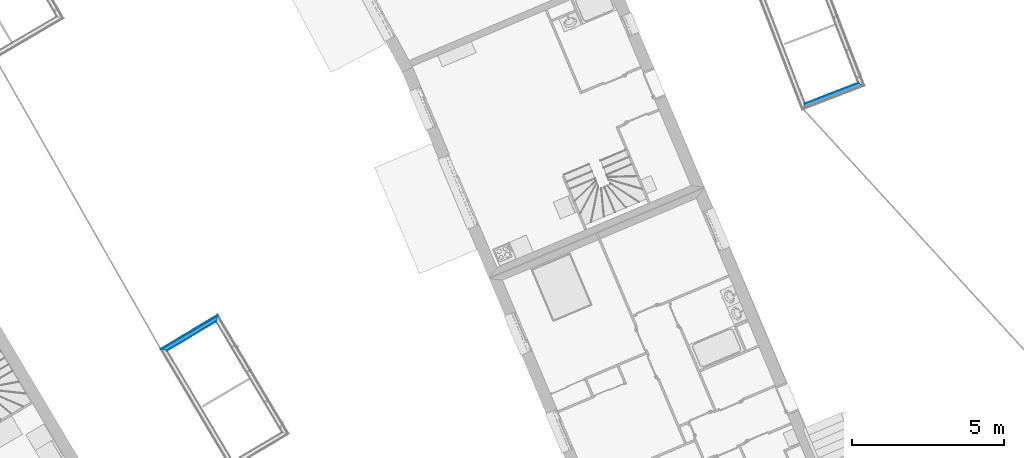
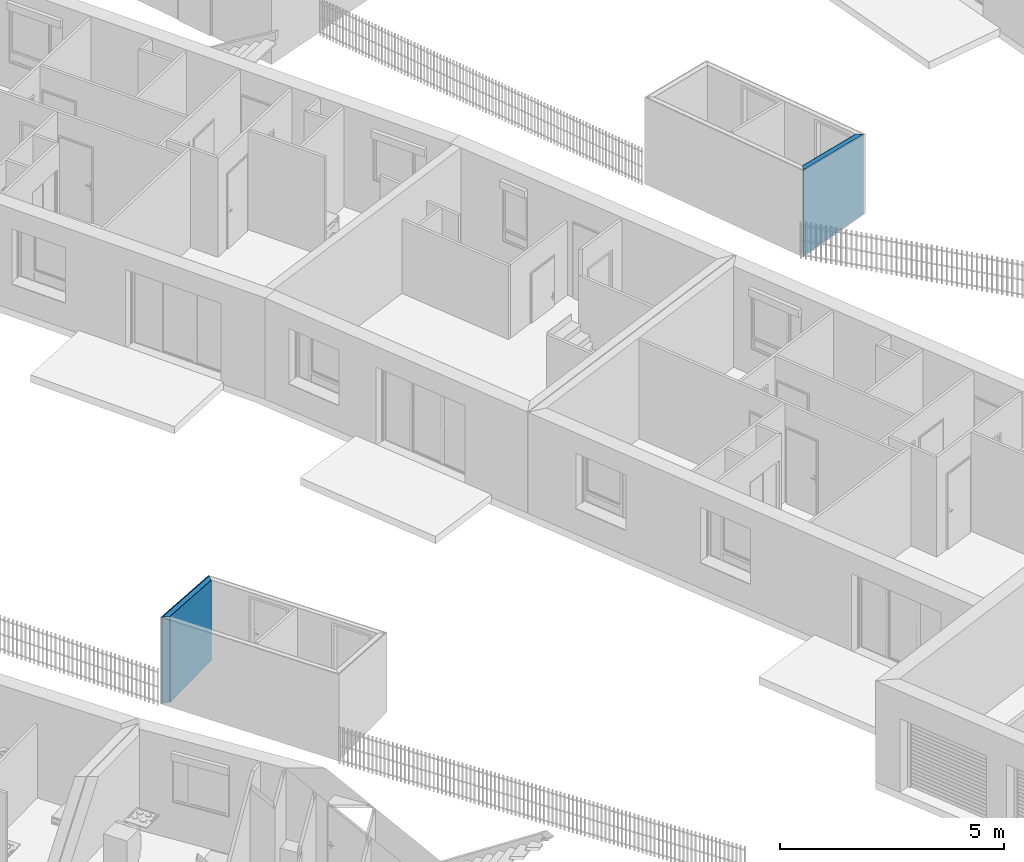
# One storey, part 125 of 195: 6 building element parts, 2 elements without a shape of their own.
"""IFC2X3 building model written with IfcOpenShell, lengths in metres."""

from ifc_helpers import new_model, entity, si_unit, converted_unit, derived_unit, money_unit, direction, frame, origin_with_axes, place, context, subcontext, project, spatial, polyline, outline, extrude, boolean, faceted_brep, material, type_object, element, aggregate, save


model = new_model("IFC2X3")

# Units and contexts
model_context = context("Model", 3, precision=1e-05, world=origin_with_axes(), true_north=direction((0.0, 1.0)))
body_context = subcontext(model_context, "Body", "Model", "MODEL_VIEW")
ifc_project = project(units=[si_unit("LENGTHUNIT", "METRE"), si_unit("AREAUNIT", "SQUARE_METRE"), si_unit("VOLUMEUNIT", "CUBIC_METRE"), converted_unit("PLANEANGLEUNIT", "DEGREE", entity("IfcPlaneAngleMeasure", 0.0174532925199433), si_unit("PLANEANGLEUNIT", "RADIAN"), dimensions=[0, 0, 0, 0, 0, 0, 0]), money_unit("CHF"), converted_unit("TIMEUNIT", "Year", entity("IfcTimeMeasure", 31557600.0), si_unit("TIMEUNIT", "SECOND"), dimensions=[0, 0, 1, 0, 0, 0, 0]), si_unit("MASSUNIT", "GRAM", prefix="KILO"), si_unit("THERMODYNAMICTEMPERATUREUNIT", "DEGREE_CELSIUS"), si_unit("LUMINOUSINTENSITYUNIT", "LUMEN"), si_unit("ENERGYUNIT", "JOULE", prefix="MEGA"), derived_unit("THERMALCONDUCTANCEUNIT", [(si_unit("POWERUNIT", "WATT"), 1), (si_unit("LENGTHUNIT", "METRE"), -1), (si_unit("THERMODYNAMICTEMPERATUREUNIT", "KELVIN"), -1)]), derived_unit("SPECIFICHEATCAPACITYUNIT", [(si_unit("ENERGYUNIT", "JOULE"), 1), (si_unit("MASSUNIT", "GRAM", prefix="KILO"), -1), (si_unit("THERMODYNAMICTEMPERATUREUNIT", "KELVIN"), -1)]), derived_unit("MASSDENSITYUNIT", [(si_unit("MASSUNIT", "GRAM", prefix="KILO"), 1), (si_unit("VOLUMEUNIT", "CUBIC_METRE"), -1)])], contexts=[model_context])

# Site, building, storey
site_placement = place(None, origin_with_axes())
site = spatial("IfcSite", under=ifc_project, at=site_placement, Name="Site", CompositionType="ELEMENT")
building_placement = place(site_placement, origin_with_axes())
building = spatial("IfcBuilding", under=site, at=building_placement, Name="Bâtiment", CompositionType="ELEMENT")
storey_placement = place(building_placement, origin_with_axes())
storey = spatial("IfcBuildingStorey", under=building, at=storey_placement, Name="rdc", CompositionType="ELEMENT", Elevation=0.0)

# Wall, building element parts
wall_type = type_object("IfcWallType", Name="1/Ossatur bois 160   non isol 160", PredefinedType="NOTDEFINED")
wall_1_placement = place(storey_placement, frame((9552.491666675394, -1047.652274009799, 57.7), z_axis=(0.0, 0.0, 1.0), x_axis=(0.8592615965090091, 0.5115364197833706, 0.0)))
wall_1 = element("IfcWall", 1, at=wall_1_placement, inside=storey, type_object=wall_type, Name="Mur-109")
ifc_material_1 = material(Name="Lame d'air 275581439")
building_element_part_1_placement = place(wall_1_placement, origin_with_axes())
building_element_part_1 = element("IfcBuildingElementPart", 2, at=building_element_part_1_placement, material=ifc_material_1, Name="Lame d'air 275581439", context=body_context, shape_type="CSG", body=[
    boolean("DIFFERENCE", boolean("DIFFERENCE", boolean("DIFFERENCE", boolean("DIFFERENCE", extrude(outline(polyline([(0.0, -0.1499999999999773), (2.193108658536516, -0.1499999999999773), (2.19310865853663, -0.0300000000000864), (0.0, -0.0300000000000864), (0.0, -0.1499999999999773)])), origin_with_axes(), (0.0, 0.0, 1.0), 2.75), faceted_brep([(0.1500000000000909, -0.1500000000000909, 2.343319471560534), (0.1499999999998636, -0.1499999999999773, 0.0), (0.0, -0.1499999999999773, 0.0), (0.0, -0.1499999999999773, 2.75), (2.193108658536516, -0.1499999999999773, 2.75), (2.193108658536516, -0.1499999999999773, 0.0), (2.043108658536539, -0.1499999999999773, 0.0), (2.043108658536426, -0.1500000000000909, 2.177693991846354), (0.1599999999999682, -0.1600000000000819, 2.342443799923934), (0.1599999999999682, -0.1600000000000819, 0.0), (0.0, -0.1600000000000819, 0.0), (0.0, -0.1600000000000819, 2.75), (2.193108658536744, -0.1599999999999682, 2.75), (2.193108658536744, -0.1599999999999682, 0.0), (2.033108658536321, -0.1600000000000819, 0.0), (2.033108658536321, -0.1600000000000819, 2.178568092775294)], [[[0, 1, 2, 3, 4, 5, 6, 7]], [[8, 9, 1, 0]], [[1, 9, 10, 2]], [[3, 2, 10, 11]], [[3, 11, 12, 4]], [[12, 13, 5, 4]], [[14, 6, 5, 13]], [[7, 6, 14, 15]], [[0, 7, 15, 8]], [[15, 14, 13, 12, 11, 10, 9, 8]]])), faceted_brep([(0.0300000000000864, -0.0300000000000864, 2.35382753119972), (0.0300000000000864, -0.0300000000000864, 0.0), (0.0, -0.0300000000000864, 0.0), (0.0, -0.0300000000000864, 2.75), (2.193108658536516, -0.0300000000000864, 2.75), (2.193108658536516, -0.0300000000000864, 0.0), (2.163108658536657, -0.0300000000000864, 0.0), (2.163108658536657, -0.0300000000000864, 2.167204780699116), (0.1499999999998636, -0.1499999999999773, 2.343319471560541), (0.1499999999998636, -0.1499999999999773, 0.0), (0.0, -0.1499999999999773, 0.0), (0.0, -0.1499999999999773, 2.75), (2.193108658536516, -0.1499999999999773, 2.75), (2.193108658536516, -0.1499999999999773, 0.0), (2.043108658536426, -0.1500000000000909, 0.0), (2.043108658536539, -0.1499999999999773, 2.177693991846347)], [[[0, 1, 2, 3, 4, 5, 6, 7]], [[8, 9, 1, 0]], [[1, 9, 10, 2]], [[3, 2, 10, 11]], [[3, 11, 12, 4]], [[12, 13, 5, 4]], [[14, 6, 5, 13]], [[7, 6, 14, 15]], [[0, 7, 15, 8]], [[15, 14, 13, 12, 11, 10, 9, 8]]])), faceted_brep([(0.01000000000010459, -0.01000000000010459, 2.355578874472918), (0.01000000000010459, -0.01000000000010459, 0.0), (0.0, -0.009999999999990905, 0.0), (0.0, -0.009999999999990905, 2.75), (2.19310865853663, -0.009999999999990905, 2.75), (2.19310865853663, -0.009999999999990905, 0.0), (2.183108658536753, -0.009999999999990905, 0.0), (2.183108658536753, -0.01000000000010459, 2.165456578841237), (0.0300000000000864, -0.0300000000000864, 2.35382753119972), (0.0300000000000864, -0.0300000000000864, 0.0), (0.0, -0.0300000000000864, 0.0), (0.0, -0.0300000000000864, 2.75), (2.193108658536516, -0.0300000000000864, 2.75), (2.193108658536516, -0.0300000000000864, 0.0), (2.163108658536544, -0.0300000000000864, 0.0), (2.163108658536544, -0.0300000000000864, 2.167204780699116)], [[[0, 1, 2, 3, 4, 5, 6, 7]], [[8, 9, 1, 0]], [[1, 9, 10, 2]], [[3, 2, 10, 11]], [[3, 11, 12, 4]], [[12, 13, 5, 4]], [[14, 6, 5, 13]], [[7, 6, 14, 15]], [[0, 7, 15, 8]], [[15, 14, 13, 12, 11, 10, 9, 8]]])), faceted_brep([(2.19310865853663, 0.0, 0.0), (2.193108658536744, 0.0, 2.164582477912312), (2.19310865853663, 0.0, 2.75), (2.19310865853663, -0.009999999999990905, 2.75), (2.19310865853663, -0.009999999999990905, 0.0), (2.183108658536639, -0.009999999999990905, 0.0), (2.183108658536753, -0.01000000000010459, 2.165456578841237), (0.0, 0.0, 2.356454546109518), (0.0, 0.0, 2.75), (0.0, -0.009999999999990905, 2.75), (0.0, -0.009999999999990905, 0.0), (0.01000000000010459, -0.01000000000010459, 0.0), (0.01000000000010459, -0.01000000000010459, 2.355578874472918), (0.0, 0.0, 0.0)], [[[0, 1, 2, 3, 4]], [[1, 0, 5, 6]], [[1, 7, 8, 2]], [[8, 9, 3, 2]], [[6, 5, 4, 3, 9, 10, 11, 12]], [[5, 0, 4]], [[7, 1, 6, 12]], [[7, 13, 10, 9, 8]], [[13, 11, 10]], [[12, 11, 13, 7]]])),
])
ifc_material_2 = material(Name="Sans Trame 296962763")
building_element_part_2_placement = place(wall_1_placement, origin_with_axes())
building_element_part_2 = element("IfcBuildingElementPart", 3, at=building_element_part_2_placement, material=ifc_material_2, Name="Sans Trame 296962763", context=body_context, shape_type="CSG", body=[
    boolean("DIFFERENCE", boolean("DIFFERENCE", boolean("DIFFERENCE", boolean("DIFFERENCE", extrude(outline(polyline([(0.0, -0.1600000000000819), (2.19310865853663, -0.1599999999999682), (2.193108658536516, -0.1499999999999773), (0.0, -0.1499999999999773), (0.0, -0.1600000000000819)])), origin_with_axes(), (0.0, 0.0, 1.0), 2.75), faceted_brep([(0.1500000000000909, -0.1500000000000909, 2.343319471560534), (0.1499999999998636, -0.1499999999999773, 0.0), (0.0, -0.1499999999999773, 0.0), (0.0, -0.1499999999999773, 2.75), (2.193108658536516, -0.1499999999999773, 2.75), (2.193108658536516, -0.1499999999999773, 0.0), (2.043108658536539, -0.1499999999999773, 0.0), (2.043108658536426, -0.1500000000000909, 2.177693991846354), (0.1599999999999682, -0.1600000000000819, 2.342443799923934), (0.1599999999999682, -0.1600000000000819, 0.0), (0.0, -0.1600000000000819, 0.0), (0.0, -0.1600000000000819, 2.75), (2.193108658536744, -0.1599999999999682, 2.75), (2.193108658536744, -0.1599999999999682, 0.0), (2.033108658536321, -0.1600000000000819, 0.0), (2.033108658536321, -0.1600000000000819, 2.178568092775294)], [[[0, 1, 2, 3, 4, 5, 6, 7]], [[8, 9, 1, 0]], [[1, 9, 10, 2]], [[3, 2, 10, 11]], [[3, 11, 12, 4]], [[12, 13, 5, 4]], [[14, 6, 5, 13]], [[7, 6, 14, 15]], [[0, 7, 15, 8]], [[15, 14, 13, 12, 11, 10, 9, 8]]])), faceted_brep([(0.0300000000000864, -0.0300000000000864, 2.35382753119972), (0.0300000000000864, -0.0300000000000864, 0.0), (0.0, -0.0300000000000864, 0.0), (0.0, -0.0300000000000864, 2.75), (2.193108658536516, -0.0300000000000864, 2.75), (2.193108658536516, -0.0300000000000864, 0.0), (2.163108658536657, -0.0300000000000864, 0.0), (2.163108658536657, -0.0300000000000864, 2.167204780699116), (0.1499999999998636, -0.1499999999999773, 2.343319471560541), (0.1499999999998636, -0.1499999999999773, 0.0), (0.0, -0.1499999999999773, 0.0), (0.0, -0.1499999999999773, 2.75), (2.193108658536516, -0.1499999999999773, 2.75), (2.193108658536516, -0.1499999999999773, 0.0), (2.043108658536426, -0.1500000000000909, 0.0), (2.043108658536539, -0.1499999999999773, 2.177693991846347)], [[[0, 1, 2, 3, 4, 5, 6, 7]], [[8, 9, 1, 0]], [[1, 9, 10, 2]], [[3, 2, 10, 11]], [[3, 11, 12, 4]], [[12, 13, 5, 4]], [[14, 6, 5, 13]], [[7, 6, 14, 15]], [[0, 7, 15, 8]], [[15, 14, 13, 12, 11, 10, 9, 8]]])), faceted_brep([(0.01000000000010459, -0.01000000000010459, 2.355578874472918), (0.01000000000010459, -0.01000000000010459, 0.0), (0.0, -0.009999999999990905, 0.0), (0.0, -0.009999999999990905, 2.75), (2.19310865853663, -0.009999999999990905, 2.75), (2.19310865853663, -0.009999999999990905, 0.0), (2.183108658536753, -0.009999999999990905, 0.0), (2.183108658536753, -0.01000000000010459, 2.165456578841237), (0.0300000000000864, -0.0300000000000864, 2.35382753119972), (0.0300000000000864, -0.0300000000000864, 0.0), (0.0, -0.0300000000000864, 0.0), (0.0, -0.0300000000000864, 2.75), (2.193108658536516, -0.0300000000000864, 2.75), (2.193108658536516, -0.0300000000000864, 0.0), (2.163108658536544, -0.0300000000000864, 0.0), (2.163108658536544, -0.0300000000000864, 2.167204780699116)], [[[0, 1, 2, 3, 4, 5, 6, 7]], [[8, 9, 1, 0]], [[1, 9, 10, 2]], [[3, 2, 10, 11]], [[3, 11, 12, 4]], [[12, 13, 5, 4]], [[14, 6, 5, 13]], [[7, 6, 14, 15]], [[0, 7, 15, 8]], [[15, 14, 13, 12, 11, 10, 9, 8]]])), faceted_brep([(2.19310865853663, 0.0, 0.0), (2.193108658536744, 0.0, 2.164582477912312), (2.19310865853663, 0.0, 2.75), (2.19310865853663, -0.009999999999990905, 2.75), (2.19310865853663, -0.009999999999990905, 0.0), (2.183108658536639, -0.009999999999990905, 0.0), (2.183108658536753, -0.01000000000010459, 2.165456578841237), (0.0, 0.0, 2.356454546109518), (0.0, 0.0, 2.75), (0.0, -0.009999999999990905, 2.75), (0.0, -0.009999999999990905, 0.0), (0.01000000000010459, -0.01000000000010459, 0.0), (0.01000000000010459, -0.01000000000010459, 2.355578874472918), (0.0, 0.0, 0.0)], [[[0, 1, 2, 3, 4]], [[1, 0, 5, 6]], [[1, 7, 8, 2]], [[8, 9, 3, 2]], [[6, 5, 4, 3, 9, 10, 11, 12]], [[5, 0, 4]], [[7, 1, 6, 12]], [[7, 13, 10, 9, 8]], [[13, 11, 10]], [[12, 11, 13, 7]]])),
])
ifc_material_3 = material(Name="Hachure solide 323202122")
building_element_part_3_placement = place(wall_1_placement, origin_with_axes())
building_element_part_3 = element("IfcBuildingElementPart", 4, at=building_element_part_3_placement, material=ifc_material_3, Name="Hachure solide 323202122", context=body_context, shape_type="CSG", body=[
    boolean("DIFFERENCE", boolean("DIFFERENCE", boolean("DIFFERENCE", boolean("DIFFERENCE", extrude(outline(polyline([(0.0, -0.009999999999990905), (2.19310865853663, -0.009999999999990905), (2.19310865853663, 0.0), (0.0, 0.0), (0.0, -0.009999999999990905)])), origin_with_axes(), (0.0, 0.0, 1.0), 2.75), faceted_brep([(0.1500000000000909, -0.1500000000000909, 2.343319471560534), (0.1499999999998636, -0.1499999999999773, 0.0), (0.0, -0.1499999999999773, 0.0), (0.0, -0.1499999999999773, 2.75), (2.193108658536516, -0.1499999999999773, 2.75), (2.193108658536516, -0.1499999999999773, 0.0), (2.043108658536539, -0.1499999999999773, 0.0), (2.043108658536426, -0.1500000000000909, 2.177693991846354), (0.1599999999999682, -0.1600000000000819, 2.342443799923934), (0.1599999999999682, -0.1600000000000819, 0.0), (0.0, -0.1600000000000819, 0.0), (0.0, -0.1600000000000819, 2.75), (2.193108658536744, -0.1599999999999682, 2.75), (2.193108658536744, -0.1599999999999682, 0.0), (2.033108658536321, -0.1600000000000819, 0.0), (2.033108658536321, -0.1600000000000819, 2.178568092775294)], [[[0, 1, 2, 3, 4, 5, 6, 7]], [[8, 9, 1, 0]], [[1, 9, 10, 2]], [[3, 2, 10, 11]], [[3, 11, 12, 4]], [[12, 13, 5, 4]], [[14, 6, 5, 13]], [[7, 6, 14, 15]], [[0, 7, 15, 8]], [[15, 14, 13, 12, 11, 10, 9, 8]]])), faceted_brep([(0.0300000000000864, -0.0300000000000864, 2.35382753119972), (0.0300000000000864, -0.0300000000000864, 0.0), (0.0, -0.0300000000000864, 0.0), (0.0, -0.0300000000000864, 2.75), (2.193108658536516, -0.0300000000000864, 2.75), (2.193108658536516, -0.0300000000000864, 0.0), (2.163108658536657, -0.0300000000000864, 0.0), (2.163108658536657, -0.0300000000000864, 2.167204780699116), (0.1499999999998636, -0.1499999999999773, 2.343319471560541), (0.1499999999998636, -0.1499999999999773, 0.0), (0.0, -0.1499999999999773, 0.0), (0.0, -0.1499999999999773, 2.75), (2.193108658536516, -0.1499999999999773, 2.75), (2.193108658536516, -0.1499999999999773, 0.0), (2.043108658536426, -0.1500000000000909, 0.0), (2.043108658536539, -0.1499999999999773, 2.177693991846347)], [[[0, 1, 2, 3, 4, 5, 6, 7]], [[8, 9, 1, 0]], [[1, 9, 10, 2]], [[3, 2, 10, 11]], [[3, 11, 12, 4]], [[12, 13, 5, 4]], [[14, 6, 5, 13]], [[7, 6, 14, 15]], [[0, 7, 15, 8]], [[15, 14, 13, 12, 11, 10, 9, 8]]])), faceted_brep([(0.01000000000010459, -0.01000000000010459, 2.355578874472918), (0.01000000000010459, -0.01000000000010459, 0.0), (0.0, -0.009999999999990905, 0.0), (0.0, -0.009999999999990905, 2.75), (2.19310865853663, -0.009999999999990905, 2.75), (2.19310865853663, -0.009999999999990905, 0.0), (2.183108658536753, -0.009999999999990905, 0.0), (2.183108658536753, -0.01000000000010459, 2.165456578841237), (0.0300000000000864, -0.0300000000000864, 2.35382753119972), (0.0300000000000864, -0.0300000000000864, 0.0), (0.0, -0.0300000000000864, 0.0), (0.0, -0.0300000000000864, 2.75), (2.193108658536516, -0.0300000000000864, 2.75), (2.193108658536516, -0.0300000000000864, 0.0), (2.163108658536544, -0.0300000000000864, 0.0), (2.163108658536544, -0.0300000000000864, 2.167204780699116)], [[[0, 1, 2, 3, 4, 5, 6, 7]], [[8, 9, 1, 0]], [[1, 9, 10, 2]], [[3, 2, 10, 11]], [[3, 11, 12, 4]], [[12, 13, 5, 4]], [[14, 6, 5, 13]], [[7, 6, 14, 15]], [[0, 7, 15, 8]], [[15, 14, 13, 12, 11, 10, 9, 8]]])), faceted_brep([(2.19310865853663, 0.0, 0.0), (2.193108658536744, 0.0, 2.164582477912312), (2.19310865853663, 0.0, 2.75), (2.19310865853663, -0.009999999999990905, 2.75), (2.19310865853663, -0.009999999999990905, 0.0), (2.183108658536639, -0.009999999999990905, 0.0), (2.183108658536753, -0.01000000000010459, 2.165456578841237), (0.0, 0.0, 2.356454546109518), (0.0, 0.0, 2.75), (0.0, -0.009999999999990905, 2.75), (0.0, -0.009999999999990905, 0.0), (0.01000000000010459, -0.01000000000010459, 0.0), (0.01000000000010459, -0.01000000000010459, 2.355578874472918), (0.0, 0.0, 0.0)], [[[0, 1, 2, 3, 4]], [[1, 0, 5, 6]], [[1, 7, 8, 2]], [[8, 9, 3, 2]], [[6, 5, 4, 3, 9, 10, 11, 12]], [[5, 0, 4]], [[7, 1, 6, 12]], [[7, 13, 10, 9, 8]], [[13, 11, 10]], [[12, 11, 13, 7]]])),
])
ifc_material_4 = material(Name="Lame d'air 323202302")
building_element_part_4_placement = place(wall_1_placement, origin_with_axes())
building_element_part_4 = element("IfcBuildingElementPart", 5, at=building_element_part_4_placement, material=ifc_material_4, Name="Lame d'air 323202302", context=body_context, shape_type="CSG", body=[
    boolean("DIFFERENCE", boolean("DIFFERENCE", boolean("DIFFERENCE", boolean("DIFFERENCE", extrude(outline(polyline([(0.0, -0.0300000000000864), (2.19310865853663, -0.0300000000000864), (2.19310865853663, -0.009999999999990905), (0.0, -0.009999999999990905), (0.0, -0.0300000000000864)])), origin_with_axes(), (0.0, 0.0, 1.0), 2.75), faceted_brep([(0.1500000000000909, -0.1500000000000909, 2.343319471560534), (0.1499999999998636, -0.1499999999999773, 0.0), (0.0, -0.1499999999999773, 0.0), (0.0, -0.1499999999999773, 2.75), (2.193108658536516, -0.1499999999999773, 2.75), (2.193108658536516, -0.1499999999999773, 0.0), (2.043108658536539, -0.1499999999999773, 0.0), (2.043108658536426, -0.1500000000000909, 2.177693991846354), (0.1599999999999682, -0.1600000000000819, 2.342443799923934), (0.1599999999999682, -0.1600000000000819, 0.0), (0.0, -0.1600000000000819, 0.0), (0.0, -0.1600000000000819, 2.75), (2.193108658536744, -0.1599999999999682, 2.75), (2.193108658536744, -0.1599999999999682, 0.0), (2.033108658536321, -0.1600000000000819, 0.0), (2.033108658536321, -0.1600000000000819, 2.178568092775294)], [[[0, 1, 2, 3, 4, 5, 6, 7]], [[8, 9, 1, 0]], [[1, 9, 10, 2]], [[3, 2, 10, 11]], [[3, 11, 12, 4]], [[12, 13, 5, 4]], [[14, 6, 5, 13]], [[7, 6, 14, 15]], [[0, 7, 15, 8]], [[15, 14, 13, 12, 11, 10, 9, 8]]])), faceted_brep([(0.0300000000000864, -0.0300000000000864, 2.35382753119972), (0.0300000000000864, -0.0300000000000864, 0.0), (0.0, -0.0300000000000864, 0.0), (0.0, -0.0300000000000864, 2.75), (2.193108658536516, -0.0300000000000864, 2.75), (2.193108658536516, -0.0300000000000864, 0.0), (2.163108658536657, -0.0300000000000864, 0.0), (2.163108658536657, -0.0300000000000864, 2.167204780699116), (0.1499999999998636, -0.1499999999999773, 2.343319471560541), (0.1499999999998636, -0.1499999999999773, 0.0), (0.0, -0.1499999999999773, 0.0), (0.0, -0.1499999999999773, 2.75), (2.193108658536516, -0.1499999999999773, 2.75), (2.193108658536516, -0.1499999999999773, 0.0), (2.043108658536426, -0.1500000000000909, 0.0), (2.043108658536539, -0.1499999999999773, 2.177693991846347)], [[[0, 1, 2, 3, 4, 5, 6, 7]], [[8, 9, 1, 0]], [[1, 9, 10, 2]], [[3, 2, 10, 11]], [[3, 11, 12, 4]], [[12, 13, 5, 4]], [[14, 6, 5, 13]], [[7, 6, 14, 15]], [[0, 7, 15, 8]], [[15, 14, 13, 12, 11, 10, 9, 8]]])), faceted_brep([(0.01000000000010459, -0.01000000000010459, 2.355578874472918), (0.01000000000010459, -0.01000000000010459, 0.0), (0.0, -0.009999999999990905, 0.0), (0.0, -0.009999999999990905, 2.75), (2.19310865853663, -0.009999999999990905, 2.75), (2.19310865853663, -0.009999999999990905, 0.0), (2.183108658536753, -0.009999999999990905, 0.0), (2.183108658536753, -0.01000000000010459, 2.165456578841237), (0.0300000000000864, -0.0300000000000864, 2.35382753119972), (0.0300000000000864, -0.0300000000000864, 0.0), (0.0, -0.0300000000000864, 0.0), (0.0, -0.0300000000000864, 2.75), (2.193108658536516, -0.0300000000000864, 2.75), (2.193108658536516, -0.0300000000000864, 0.0), (2.163108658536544, -0.0300000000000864, 0.0), (2.163108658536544, -0.0300000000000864, 2.167204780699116)], [[[0, 1, 2, 3, 4, 5, 6, 7]], [[8, 9, 1, 0]], [[1, 9, 10, 2]], [[3, 2, 10, 11]], [[3, 11, 12, 4]], [[12, 13, 5, 4]], [[14, 6, 5, 13]], [[7, 6, 14, 15]], [[0, 7, 15, 8]], [[15, 14, 13, 12, 11, 10, 9, 8]]])), faceted_brep([(2.19310865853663, 0.0, 0.0), (2.193108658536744, 0.0, 2.164582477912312), (2.19310865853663, 0.0, 2.75), (2.19310865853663, -0.009999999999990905, 2.75), (2.19310865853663, -0.009999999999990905, 0.0), (2.183108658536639, -0.009999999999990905, 0.0), (2.183108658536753, -0.01000000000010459, 2.165456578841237), (0.0, 0.0, 2.356454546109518), (0.0, 0.0, 2.75), (0.0, -0.009999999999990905, 2.75), (0.0, -0.009999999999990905, 0.0), (0.01000000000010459, -0.01000000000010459, 0.0), (0.01000000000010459, -0.01000000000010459, 2.355578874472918), (0.0, 0.0, 0.0)], [[[0, 1, 2, 3, 4]], [[1, 0, 5, 6]], [[1, 7, 8, 2]], [[8, 9, 3, 2]], [[6, 5, 4, 3, 9, 10, 11, 12]], [[5, 0, 4]], [[7, 1, 6, 12]], [[7, 13, 10, 9, 8]], [[13, 11, 10]], [[12, 11, 13, 7]]])),
])
aggregate(wall_1, [building_element_part_1, building_element_part_2, building_element_part_3, building_element_part_4])

wall_2_placement = place(storey_placement, frame((9575.618741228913, -1039.004407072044, 57.7), z_axis=(0.0, 0.0, 1.0), x_axis=(-0.9332123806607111, -0.3593252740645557, 0.0)))
wall_2 = element("IfcWall", 6, at=wall_2_placement, inside=storey, type_object=wall_type, Name="Mur-111")
building_element_part_5_placement = place(wall_2_placement, origin_with_axes())
building_element_part_5 = element("IfcBuildingElementPart", 7, at=building_element_part_5_placement, material=ifc_material_1, Name="Lame d'air 275581439", context=body_context, shape_type="CSG", body=[
    boolean("DIFFERENCE", boolean("DIFFERENCE", boolean("DIFFERENCE", boolean("DIFFERENCE", extrude(outline(polyline([(0.0, -0.1500000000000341), (2.193108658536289, -0.1499999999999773), (2.193108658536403, -0.02999999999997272), (0.0, -0.02999999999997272), (0.0, -0.1500000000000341)])), origin_with_axes(), (0.0, 0.0, 1.0), 2.75), faceted_brep([(2.043108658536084, -0.1499999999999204, 0.0), (2.043108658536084, -0.1499999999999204, 2.342973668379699), (0.1500000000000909, -0.1499999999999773, 2.177348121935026), (0.1500000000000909, -0.1500000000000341, 0.0), (0.0, -0.1500000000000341, 0.0), (0.0, -0.1500000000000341, 2.75), (2.193108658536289, -0.1499999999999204, 2.75), (2.193108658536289, -0.1499999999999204, 0.0), (2.033108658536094, -0.1599999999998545, 0.0), (2.033108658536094, -0.1599999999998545, 2.342098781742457), (0.1600000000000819, -0.160000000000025, 2.178223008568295), (0.1600000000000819, -0.160000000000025, 0.0), (0.0, -0.160000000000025, 0.0), (0.0, -0.160000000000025, 2.75), (2.193108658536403, -0.160000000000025, 2.75), (2.193108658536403, -0.160000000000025, 0.0)], [[[0, 1, 2, 3, 4, 5, 6, 7]], [[8, 9, 1, 0]], [[2, 1, 9, 10]], [[3, 2, 10, 11]], [[3, 11, 12, 4]], [[5, 4, 12, 13]], [[5, 13, 14, 6]], [[14, 15, 7, 6]], [[8, 0, 7, 15]], [[9, 8, 15, 14, 13, 12, 11, 10]]])), faceted_brep([(2.163108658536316, -0.02999999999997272, 0.0), (2.163108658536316, -0.02999999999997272, 2.353472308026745), (0.0300000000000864, -0.03000000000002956, 2.16684948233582), (0.0300000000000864, -0.02999999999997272, 0.0), (0.0, -0.02999999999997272, 0.0), (0.0, -0.02999999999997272, 2.75), (2.193108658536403, -0.02999999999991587, 2.75), (2.193108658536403, -0.02999999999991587, 0.0), (2.043108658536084, -0.1499999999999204, 0.0), (2.043108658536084, -0.1499999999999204, 2.342973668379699), (0.1500000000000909, -0.1500000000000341, 2.177348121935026), (0.1500000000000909, -0.1500000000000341, 0.0), (0.0, -0.1500000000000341, 0.0), (0.0, -0.1500000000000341, 2.75), (2.193108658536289, -0.1499999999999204, 2.75), (2.193108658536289, -0.1499999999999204, 0.0)], [[[0, 1, 2, 3, 4, 5, 6, 7]], [[8, 9, 1, 0]], [[2, 1, 9, 10]], [[3, 2, 10, 11]], [[3, 11, 12, 4]], [[5, 4, 12, 13]], [[5, 13, 14, 6]], [[14, 15, 7, 6]], [[8, 0, 7, 15]], [[9, 8, 15, 14, 13, 12, 11, 10]]])), faceted_brep([(2.183108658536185, -0.009999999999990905, 0.0), (2.183108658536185, -0.009999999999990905, 2.35522208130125), (0.009999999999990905, -0.009999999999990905, 2.165099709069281), (0.01000000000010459, -0.009999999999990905, 0.0), (0.0, -0.009999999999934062, 0.0), (0.0, -0.009999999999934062, 2.75), (2.193108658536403, -0.009999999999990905, 2.75), (2.193108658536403, -0.009999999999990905, 0.0), (2.163108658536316, -0.02999999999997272, 0.0), (2.163108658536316, -0.02999999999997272, 2.353472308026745), (0.02999999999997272, -0.02999999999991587, 2.166849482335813), (0.0300000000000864, -0.02999999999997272, 0.0), (0.0, -0.02999999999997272, 0.0), (0.0, -0.02999999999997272, 2.75), (2.193108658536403, -0.02999999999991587, 2.75), (2.193108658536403, -0.02999999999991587, 0.0)], [[[0, 1, 2, 3, 4, 5, 6, 7]], [[8, 9, 1, 0]], [[2, 1, 9, 10]], [[3, 2, 10, 11]], [[3, 11, 12, 4]], [[5, 4, 12, 13]], [[5, 13, 14, 6]], [[14, 15, 7, 6]], [[8, 0, 7, 15]], [[9, 8, 15, 14, 13, 12, 11, 10]]])), faceted_brep([(2.193108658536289, 0.0, 2.356096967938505), (0.0, 0.0, 2.164224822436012), (0.0, 0.0, 2.75), (2.193108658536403, 0.0, 2.75), (2.183108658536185, -0.009999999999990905, 2.35522208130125), (0.009999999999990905, -0.009999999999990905, 2.165099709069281), (0.0, 0.0, 0.0), (0.0, -0.009999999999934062, 0.0), (0.0, -0.009999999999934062, 2.75), (2.193108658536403, -0.009999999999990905, 2.75), (2.193108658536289, 0.0, 0.0), (2.193108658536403, -0.009999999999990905, 0.0), (2.183108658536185, -0.009999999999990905, 0.0), (0.01000000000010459, -0.009999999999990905, 0.0)], [[[0, 1, 2, 3]], [[1, 0, 4, 5]], [[1, 6, 7, 8, 2]], [[2, 8, 9, 3]], [[10, 0, 3, 9, 11]], [[12, 4, 0, 10]], [[4, 12, 11, 9, 8, 7, 13, 5]], [[6, 1, 5, 13]], [[6, 13, 7]], [[12, 10, 11]]])),
])
building_element_part_6_placement = place(wall_2_placement, origin_with_axes())
building_element_part_6 = element("IfcBuildingElementPart", 8, at=building_element_part_6_placement, material=ifc_material_2, Name="Sans Trame 296962763", context=body_context, shape_type="CSG", body=[
    boolean("DIFFERENCE", boolean("DIFFERENCE", boolean("DIFFERENCE", boolean("DIFFERENCE", extrude(outline(polyline([(0.0, -0.160000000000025), (2.193108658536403, -0.160000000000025), (2.193108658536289, -0.1499999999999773), (0.0, -0.1500000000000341), (0.0, -0.160000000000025)])), origin_with_axes(), (0.0, 0.0, 1.0), 2.75), faceted_brep([(2.043108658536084, -0.1499999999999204, 0.0), (2.043108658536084, -0.1499999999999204, 2.342973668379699), (0.1500000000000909, -0.1499999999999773, 2.177348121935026), (0.1500000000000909, -0.1500000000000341, 0.0), (0.0, -0.1500000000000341, 0.0), (0.0, -0.1500000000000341, 2.75), (2.193108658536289, -0.1499999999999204, 2.75), (2.193108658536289, -0.1499999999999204, 0.0), (2.033108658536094, -0.1599999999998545, 0.0), (2.033108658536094, -0.1599999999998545, 2.342098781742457), (0.1600000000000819, -0.160000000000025, 2.178223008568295), (0.1600000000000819, -0.160000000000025, 0.0), (0.0, -0.160000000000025, 0.0), (0.0, -0.160000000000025, 2.75), (2.193108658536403, -0.160000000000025, 2.75), (2.193108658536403, -0.160000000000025, 0.0)], [[[0, 1, 2, 3, 4, 5, 6, 7]], [[8, 9, 1, 0]], [[2, 1, 9, 10]], [[3, 2, 10, 11]], [[3, 11, 12, 4]], [[5, 4, 12, 13]], [[5, 13, 14, 6]], [[14, 15, 7, 6]], [[8, 0, 7, 15]], [[9, 8, 15, 14, 13, 12, 11, 10]]])), faceted_brep([(2.163108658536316, -0.02999999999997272, 0.0), (2.163108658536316, -0.02999999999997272, 2.353472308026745), (0.0300000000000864, -0.03000000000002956, 2.16684948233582), (0.0300000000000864, -0.02999999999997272, 0.0), (0.0, -0.02999999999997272, 0.0), (0.0, -0.02999999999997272, 2.75), (2.193108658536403, -0.02999999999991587, 2.75), (2.193108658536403, -0.02999999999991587, 0.0), (2.043108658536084, -0.1499999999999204, 0.0), (2.043108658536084, -0.1499999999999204, 2.342973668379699), (0.1500000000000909, -0.1500000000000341, 2.177348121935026), (0.1500000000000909, -0.1500000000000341, 0.0), (0.0, -0.1500000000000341, 0.0), (0.0, -0.1500000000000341, 2.75), (2.193108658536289, -0.1499999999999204, 2.75), (2.193108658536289, -0.1499999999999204, 0.0)], [[[0, 1, 2, 3, 4, 5, 6, 7]], [[8, 9, 1, 0]], [[2, 1, 9, 10]], [[3, 2, 10, 11]], [[3, 11, 12, 4]], [[5, 4, 12, 13]], [[5, 13, 14, 6]], [[14, 15, 7, 6]], [[8, 0, 7, 15]], [[9, 8, 15, 14, 13, 12, 11, 10]]])), faceted_brep([(2.183108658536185, -0.009999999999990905, 0.0), (2.183108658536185, -0.009999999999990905, 2.35522208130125), (0.009999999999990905, -0.009999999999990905, 2.165099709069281), (0.01000000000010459, -0.009999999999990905, 0.0), (0.0, -0.009999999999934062, 0.0), (0.0, -0.009999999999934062, 2.75), (2.193108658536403, -0.009999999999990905, 2.75), (2.193108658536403, -0.009999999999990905, 0.0), (2.163108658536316, -0.02999999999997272, 0.0), (2.163108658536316, -0.02999999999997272, 2.353472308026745), (0.02999999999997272, -0.02999999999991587, 2.166849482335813), (0.0300000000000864, -0.02999999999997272, 0.0), (0.0, -0.02999999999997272, 0.0), (0.0, -0.02999999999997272, 2.75), (2.193108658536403, -0.02999999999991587, 2.75), (2.193108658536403, -0.02999999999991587, 0.0)], [[[0, 1, 2, 3, 4, 5, 6, 7]], [[8, 9, 1, 0]], [[2, 1, 9, 10]], [[3, 2, 10, 11]], [[3, 11, 12, 4]], [[5, 4, 12, 13]], [[5, 13, 14, 6]], [[14, 15, 7, 6]], [[8, 0, 7, 15]], [[9, 8, 15, 14, 13, 12, 11, 10]]])), faceted_brep([(2.193108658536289, 0.0, 2.356096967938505), (0.0, 0.0, 2.164224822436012), (0.0, 0.0, 2.75), (2.193108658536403, 0.0, 2.75), (2.183108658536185, -0.009999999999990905, 2.35522208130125), (0.009999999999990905, -0.009999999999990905, 2.165099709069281), (0.0, 0.0, 0.0), (0.0, -0.009999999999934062, 0.0), (0.0, -0.009999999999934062, 2.75), (2.193108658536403, -0.009999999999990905, 2.75), (2.193108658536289, 0.0, 0.0), (2.193108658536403, -0.009999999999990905, 0.0), (2.183108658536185, -0.009999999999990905, 0.0), (0.01000000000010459, -0.009999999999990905, 0.0)], [[[0, 1, 2, 3]], [[1, 0, 4, 5]], [[1, 6, 7, 8, 2]], [[2, 8, 9, 3]], [[10, 0, 3, 9, 11]], [[12, 4, 0, 10]], [[4, 12, 11, 9, 8, 7, 13, 5]], [[6, 1, 5, 13]], [[6, 13, 7]], [[12, 10, 11]]])),
])
aggregate(wall_2, [building_element_part_5, building_element_part_6])

save(model, "model.ifc")
